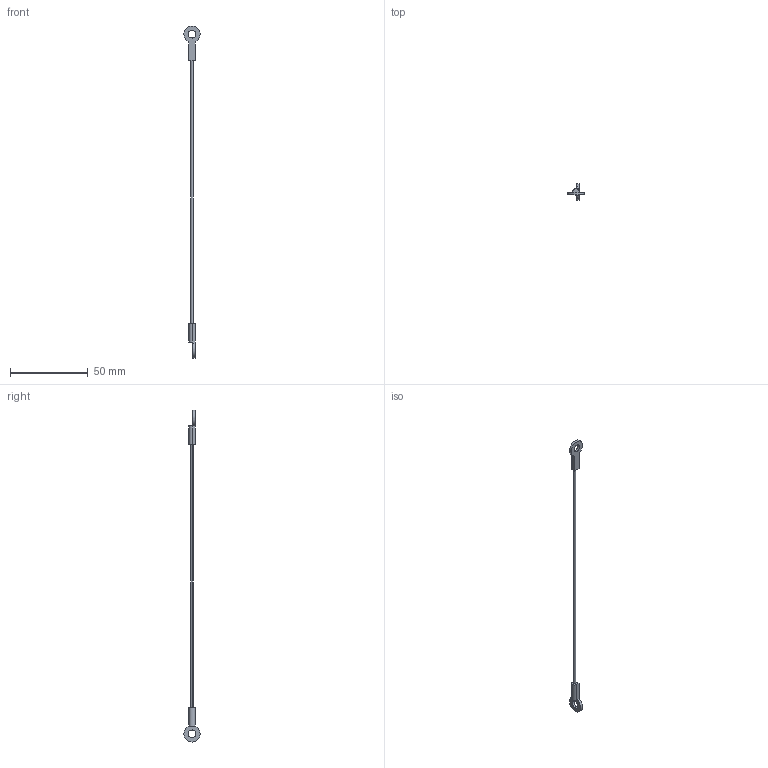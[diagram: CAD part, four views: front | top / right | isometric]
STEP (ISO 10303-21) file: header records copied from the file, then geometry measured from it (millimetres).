
FILE_DESCRIPTION (( 'STEP AP203' ), '1' );
FILE_NAME ('LA1070.I06-203G1.step', '2026-03-23T14:50:00', ( '' ), ( '' ), 'SwSTEP 2.0', 'SolidWorks 2019', '' );
FILE_SCHEMA (( 'CONFIG_CONTROL_DESIGN' ));
Length unit declared in the file: millimetre
Products named in the file (1): LA1070.I06-203G1
Bounding box: 10.4 x 10.38 x 213.59 mm (x, y, z)
Volume: 872.9 mm3; surface area: 1622.8 mm2
Topology: 1 solids, 1 shells, 27 faces, 65 edges, 42 vertices
Faces by surface type: plane 16, cylinder 11
Entity records: 874 total; most frequent: DIRECTION 143, CARTESIAN_POINT 135, ORIENTED_EDGE 130, EDGE_CURVE 65, AXIS2_PLACEMENT_3D 50, VECTOR 43, LINE 43, VERTEX_POINT 42
